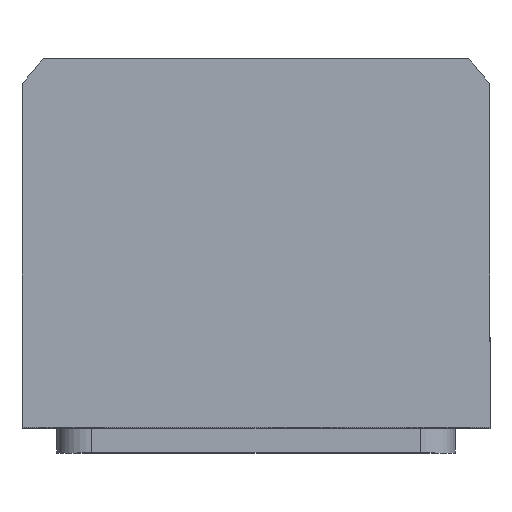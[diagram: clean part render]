
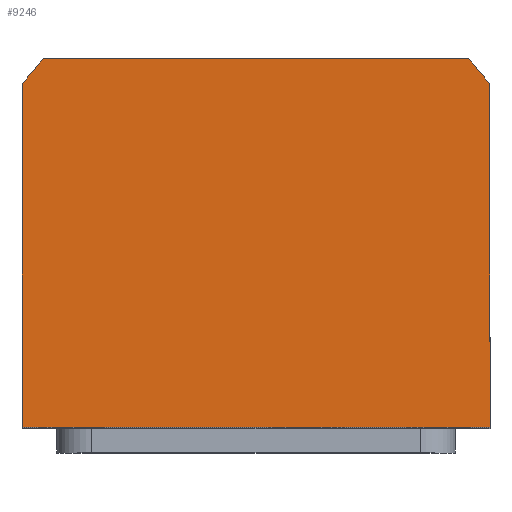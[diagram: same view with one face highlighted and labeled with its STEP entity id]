
A CAD part, top view. The second image highlights one B-rep face of the part: STEP entity #9246.
In plain terms, the highlighted planar face has unit normal (0, 0, 1).
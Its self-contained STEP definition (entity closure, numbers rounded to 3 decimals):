
#43 = CARTESIAN_POINT ( 'NONE',  ( -47., 34.832, 72.5 ) ) ;
#848 = DIRECTION ( 'NONE',  ( 1., 0., 0. ) ) ;
#871 = CIRCLE ( 'NONE', #10328, 58.5 ) ;
#1010 = DIRECTION ( 'NONE',  ( 0., -1., 0. ) ) ;
#1017 = CARTESIAN_POINT ( 'NONE',  ( 47., -34., 72.5 ) ) ;
#1076 = VERTEX_POINT ( 'NONE', #43 ) ;
#1839 = DIRECTION ( 'NONE',  ( 0., 1., 0. ) ) ;
#1874 = EDGE_CURVE ( 'NONE', #7102, #8292, #3152, .T. ) ;
#2053 = VERTEX_POINT ( 'NONE', #2985 ) ;
#2778 = LINE ( 'NONE', #12430, #11209 ) ;
#2985 = CARTESIAN_POINT ( 'NONE',  ( -42.688, 40., 72.5 ) ) ;
#3125 = CARTESIAN_POINT ( 'NONE',  ( 47., -34., 72.5 ) ) ;
#3152 = CIRCLE ( 'NONE', #12174, 58.5 ) ;
#3290 = FACE_OUTER_BOUND ( 'NONE', #5533, .T. ) ;
#3699 = EDGE_CURVE ( 'NONE', #8174, #7102, #9525, .T. ) ;
#4488 = AXIS2_PLACEMENT_3D ( 'NONE', #13359, #5274, #14616 ) ;
#4570 = VERTEX_POINT ( 'NONE', #4779 ) ;
#4691 = ORIENTED_EDGE ( 'NONE', *, *, #9351, .T. ) ;
#4750 = LINE ( 'NONE', #6764, #7669 ) ;
#4779 = CARTESIAN_POINT ( 'NONE',  ( -47., -34., 72.5 ) ) ;
#4898 = CARTESIAN_POINT ( 'NONE',  ( 42.688, 40., 72.5 ) ) ;
#5274 = DIRECTION ( 'NONE',  ( 0., 0., 1. ) ) ;
#5533 = EDGE_LOOP ( 'NONE', ( #9584, #8731, #7329, #13388, #10290, #4691 ) ) ;
#5661 = VECTOR ( 'NONE', #13418, 1000. ) ;
#6240 = DIRECTION ( 'NONE',  ( 0., 0., 1. ) ) ;
#6491 = EDGE_CURVE ( 'NONE', #4570, #8174, #11251, .T. ) ;
#6567 = PLANE ( 'NONE',  #4488 ) ;
#6764 = CARTESIAN_POINT ( 'NONE',  ( -42.688, 40., 72.5 ) ) ;
#6848 = CARTESIAN_POINT ( 'NONE',  ( 0., 0., 72.5 ) ) ;
#7102 = VERTEX_POINT ( 'NONE', #7276 ) ;
#7276 = CARTESIAN_POINT ( 'NONE',  ( 47., 34.832, 72.5 ) ) ;
#7329 = ORIENTED_EDGE ( 'NONE', *, *, #1874, .T. ) ;
#7402 = EDGE_CURVE ( 'NONE', #8292, #2053, #4750, .T. ) ;
#7554 = VECTOR ( 'NONE', #1839, 1000. ) ;
#7669 = VECTOR ( 'NONE', #14809, 1000. ) ;
#8174 = VERTEX_POINT ( 'NONE', #1017 ) ;
#8292 = VERTEX_POINT ( 'NONE', #4898 ) ;
#8731 = ORIENTED_EDGE ( 'NONE', *, *, #3699, .T. ) ;
#9246 = ADVANCED_FACE ( 'NONE', ( #3290 ), #6567, .T. ) ;
#9351 = EDGE_CURVE ( 'NONE', #1076, #4570, #2778, .T. ) ;
#9525 = LINE ( 'NONE', #14459, #7554 ) ;
#9584 = ORIENTED_EDGE ( 'NONE', *, *, #6491, .T. ) ;
#10290 = ORIENTED_EDGE ( 'NONE', *, *, #13256, .T. ) ;
#10328 = AXIS2_PLACEMENT_3D ( 'NONE', #6848, #14895, #848 ) ;
#11209 = VECTOR ( 'NONE', #1010, 1000. ) ;
#11251 = LINE ( 'NONE', #3125, #5661 ) ;
#12067 = CARTESIAN_POINT ( 'NONE',  ( 0., 0., 72.5 ) ) ;
#12174 = AXIS2_PLACEMENT_3D ( 'NONE', #12067, #6240, #13232 ) ;
#12430 = CARTESIAN_POINT ( 'NONE',  ( -47., -34., 72.5 ) ) ;
#13232 = DIRECTION ( 'NONE',  ( 1., 0., 0. ) ) ;
#13256 = EDGE_CURVE ( 'NONE', #2053, #1076, #871, .T. ) ;
#13359 = CARTESIAN_POINT ( 'NONE',  ( 0., 0., 72.5 ) ) ;
#13388 = ORIENTED_EDGE ( 'NONE', *, *, #7402, .T. ) ;
#13418 = DIRECTION ( 'NONE',  ( 1., 0., 0. ) ) ;
#14459 = CARTESIAN_POINT ( 'NONE',  ( 47., 34.832, 72.5 ) ) ;
#14616 = DIRECTION ( 'NONE',  ( 1., 0., 0. ) ) ;
#14809 = DIRECTION ( 'NONE',  ( -1., 0., 0. ) ) ;
#14895 = DIRECTION ( 'NONE',  ( 0., 0., 1. ) ) ;
